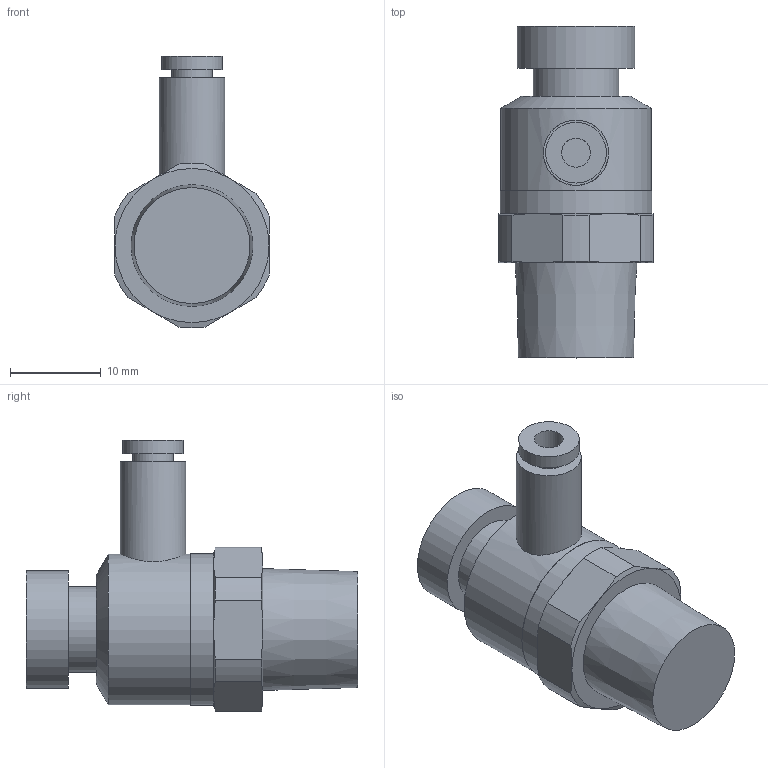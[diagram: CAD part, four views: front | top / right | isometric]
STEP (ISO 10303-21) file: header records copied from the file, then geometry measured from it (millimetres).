
FILE_DESCRIPTION(/* description */ ('STEP AP214'),/* implementation_level */ '2;1');
FILE_NAME(/* name */ 'AS2201F-02-23SA',/* time_stamp */ '2024-10-24T14:07:11+02:00',/* author */ ('License CC BY-ND 4.0'),/* organization */ ('CADENAS'),/* preprocessor_version */ 'ST-DEVELOPER v19.3',/* originating_system */ 'PARTsolutions',/* authorisation */ ' ');
FILE_SCHEMA (('AUTOMOTIVE_DESIGN {1 0 10303 214 3 1 1}'));
Length unit declared in the file: millimetre
Products named in the file (1): AS2201F-02-23SA
Bounding box: 17 x 36.6 x 29.99 mm (x, y, z)
Volume: 6690.8 mm3; surface area: 2689.1 mm2
Topology: 1 solids, 1 shells, 45 faces, 89 edges, 55 vertices
Faces by surface type: plane 17, cone 14, cylinder 14
Full cylindrical faces by diameter (mm): 3.2 x1, 4.5 x1, 6.7 x1, 7.2 x1, 9.45 x1, 13 x1, 16.6 x1, 16.7 x1
Entity records: 1181 total; most frequent: CARTESIAN_POINT 270, DIRECTION 188, ORIENTED_EDGE 158, AXIS2_PLACEMENT_3D 88, EDGE_CURVE 79, EDGE_LOOP 64, FACE_BOUND 64, VERTEX_POINT 55
